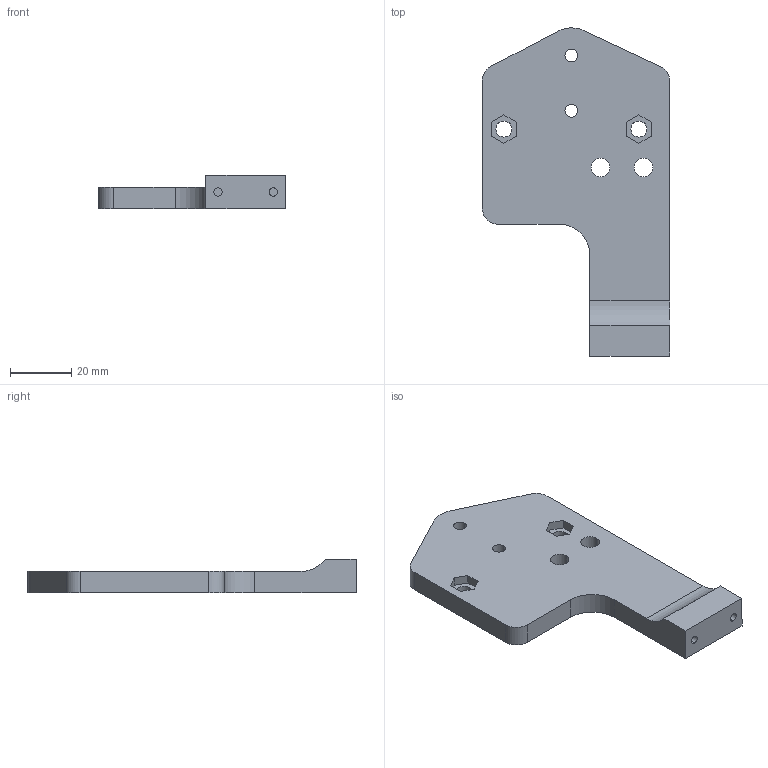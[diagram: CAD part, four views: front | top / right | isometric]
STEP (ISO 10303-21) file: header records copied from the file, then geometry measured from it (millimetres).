
FILE_DESCRIPTION (( 'STEP AP203' ), '1' );
FILE_NAME ('CR10sV2 MP Jam Nut.STEP', '2022-07-25T00:43:02', ( '' ), ( '' ), 'SwSTEP 2.0', 'SolidWorks 2021', '' );
FILE_SCHEMA (( 'CONFIG_CONTROL_DESIGN' ));
Length unit declared in the file: millimetre
Products named in the file (1): CR10sV2 MP Jam Nut
Bounding box: 61 x 107 x 11 mm (x, y, z)
Volume: 32364.6 mm3; surface area: 12294.9 mm2
Topology: 1 solids, 1 shells, 52 faces, 134 edges, 88 vertices
Faces by surface type: plane 26, cylinder 22, cone 4
Entity records: 1695 total; most frequent: DIRECTION 288, CARTESIAN_POINT 275, ORIENTED_EDGE 268, EDGE_CURVE 134, AXIS2_PLACEMENT_3D 101, VERTEX_POINT 88, LINE 86, VECTOR 86
